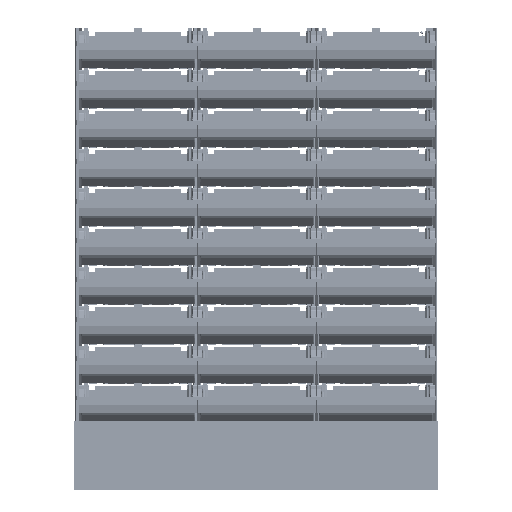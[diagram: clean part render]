
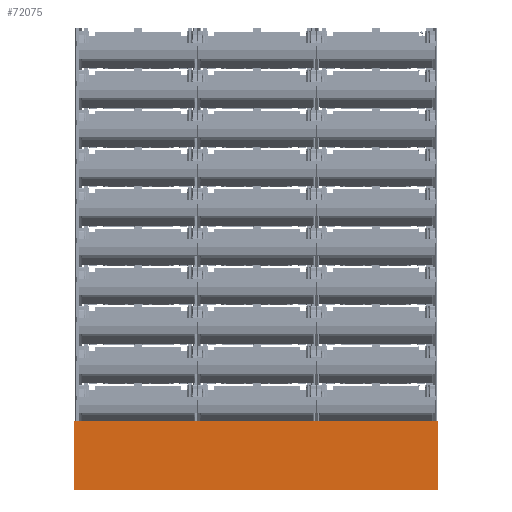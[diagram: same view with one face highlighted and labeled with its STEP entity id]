
A CAD part, front view. The second image highlights one B-rep face of the part: STEP entity #72075.
In plain terms, the highlighted planar face has unit normal (0, -1, 0).
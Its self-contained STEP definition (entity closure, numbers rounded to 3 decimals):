
#1333=FACE_BOUND('',#129504,.T.);
#1334=FACE_BOUND('',#129505,.T.);
#43183=B_SPLINE_CURVE_WITH_KNOTS('',1,(#1355285,#1355286),.UNSPECIFIED.,
 .F.,.F.,(2,2),(0.,1846.),.UNSPECIFIED.);
#43184=B_SPLINE_CURVE_WITH_KNOTS('',1,(#1355287,#1355288),.UNSPECIFIED.,
 .F.,.F.,(2,2),(0.,350.),.UNSPECIFIED.);
#43185=B_SPLINE_CURVE_WITH_KNOTS('',1,(#1355289,#1355290),.UNSPECIFIED.,
 .F.,.F.,(2,2),(0.,1846.),.UNSPECIFIED.);
#43186=B_SPLINE_CURVE_WITH_KNOTS('',1,(#1355291,#1355292),.UNSPECIFIED.,
 .F.,.F.,(2,2),(0.,350.),.UNSPECIFIED.);
#72075=ADVANCED_FACE('',(#100588,#1333,#1334),#443316,.T.);
#100588=FACE_OUTER_BOUND('',#129503,.T.);
#129503=EDGE_LOOP('',(#268905,#268906,#268907,#268908));
#129504=EDGE_LOOP('',(#268909));
#129505=EDGE_LOOP('',(#268910));
#268905=ORIENTED_EDGE('',*,*,#348424,.T.);
#268906=ORIENTED_EDGE('',*,*,#348425,.T.);
#268907=ORIENTED_EDGE('',*,*,#348426,.F.);
#268908=ORIENTED_EDGE('',*,*,#348427,.F.);
#268909=ORIENTED_EDGE('',*,*,#348438,.T.);
#268910=ORIENTED_EDGE('',*,*,#348439,.T.);
#348424=EDGE_CURVE('',#427966,#427967,#43183,.T.);
#348425=EDGE_CURVE('',#427967,#427962,#43184,.T.);
#348426=EDGE_CURVE('',#427963,#427962,#43185,.T.);
#348427=EDGE_CURVE('',#427966,#427963,#43186,.T.);
#348438=EDGE_CURVE('',#427972,#427972,#381785,.T.);
#348439=EDGE_CURVE('',#427973,#427973,#381786,.T.);
#381785=(
BOUNDED_CURVE()
B_SPLINE_CURVE(2,(#1355327,#1355328,#1355329,#1355330,#1355331,#1355332,
#1355333,#1355334,#1355335),.UNSPECIFIED.,.T.,.F.)
B_SPLINE_CURVE_WITH_KNOTS((3,2,2,2,3),(0.,10.21,20.42,
30.631,40.841),.UNSPECIFIED.)
CURVE()
GEOMETRIC_REPRESENTATION_ITEM()
RATIONAL_B_SPLINE_CURVE((1.,0.707,1.,0.707,1.,0.707,
1.,0.707,1.))
REPRESENTATION_ITEM('')
);
#381786=(
BOUNDED_CURVE()
B_SPLINE_CURVE(2,(#1355336,#1355337,#1355338,#1355339,#1355340,#1355341,
#1355342,#1355343,#1355344),.UNSPECIFIED.,.T.,.F.)
B_SPLINE_CURVE_WITH_KNOTS((3,2,2,2,3),(0.,10.21,20.42,
30.631,40.841),.UNSPECIFIED.)
CURVE()
GEOMETRIC_REPRESENTATION_ITEM()
RATIONAL_B_SPLINE_CURVE((1.,0.707,1.,0.707,1.,0.707,
1.,0.707,1.))
REPRESENTATION_ITEM('')
);
#427962=VERTEX_POINT('',#1355221);
#427963=VERTEX_POINT('',#1355222);
#427966=VERTEX_POINT('',#1355225);
#427967=VERTEX_POINT('',#1355226);
#427972=VERTEX_POINT('',#1355231);
#427973=VERTEX_POINT('',#1355232);
#443316=PLANE('',#481450);
#481450=AXIS2_PLACEMENT_3D('',#1355208,#505823,$);
#505823=DIRECTION('',(0.,-1.,0.));
#1355208=CARTESIAN_POINT('',(-1855.,0.538,0.));
#1355221=CARTESIAN_POINT('',(-9.,0.538,350.));
#1355222=CARTESIAN_POINT('',(-1855.,0.538,350.));
#1355225=CARTESIAN_POINT('',(-1855.,0.538,0.));
#1355226=CARTESIAN_POINT('',(-9.,0.538,0.));
#1355231=CARTESIAN_POINT('',(-1801.5,0.538,328.5));
#1355232=CARTESIAN_POINT('',(-62.5,0.538,328.5));
#1355285=CARTESIAN_POINT('',(-1855.,0.538,0.));
#1355286=CARTESIAN_POINT('',(-9.,0.538,0.));
#1355287=CARTESIAN_POINT('',(-9.,0.538,0.));
#1355288=CARTESIAN_POINT('',(-9.,0.538,350.));
#1355289=CARTESIAN_POINT('',(-1855.,0.538,350.));
#1355290=CARTESIAN_POINT('',(-9.,0.538,350.));
#1355291=CARTESIAN_POINT('',(-1855.,0.538,0.));
#1355292=CARTESIAN_POINT('',(-1855.,0.538,350.));
#1355327=CARTESIAN_POINT('',(-1801.5,0.538,328.5));
#1355328=CARTESIAN_POINT('',(-1801.5,0.538,335.));
#1355329=CARTESIAN_POINT('',(-1795.,0.538,335.));
#1355330=CARTESIAN_POINT('',(-1788.5,0.538,335.));
#1355331=CARTESIAN_POINT('',(-1788.5,0.538,328.5));
#1355332=CARTESIAN_POINT('',(-1788.5,0.538,322.));
#1355333=CARTESIAN_POINT('',(-1795.,0.538,322.));
#1355334=CARTESIAN_POINT('',(-1801.5,0.538,322.));
#1355335=CARTESIAN_POINT('',(-1801.5,0.538,328.5));
#1355336=CARTESIAN_POINT('',(-62.5,0.538,328.5));
#1355337=CARTESIAN_POINT('',(-62.5,0.538,322.));
#1355338=CARTESIAN_POINT('',(-69.,0.538,322.));
#1355339=CARTESIAN_POINT('',(-75.5,0.538,322.));
#1355340=CARTESIAN_POINT('',(-75.5,0.538,328.5));
#1355341=CARTESIAN_POINT('',(-75.5,0.538,335.));
#1355342=CARTESIAN_POINT('',(-69.,0.538,335.));
#1355343=CARTESIAN_POINT('',(-62.5,0.538,335.));
#1355344=CARTESIAN_POINT('',(-62.5,0.538,328.5));
